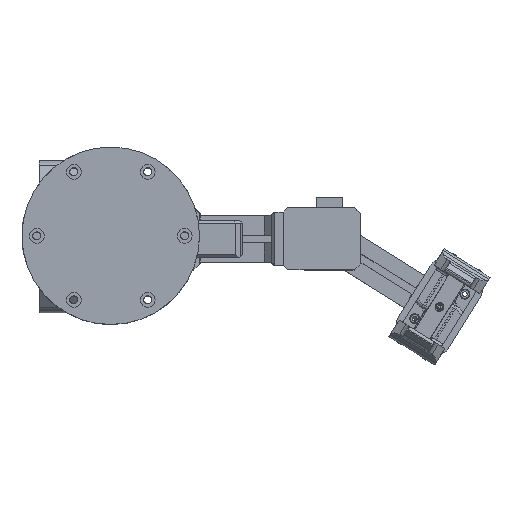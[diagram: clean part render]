
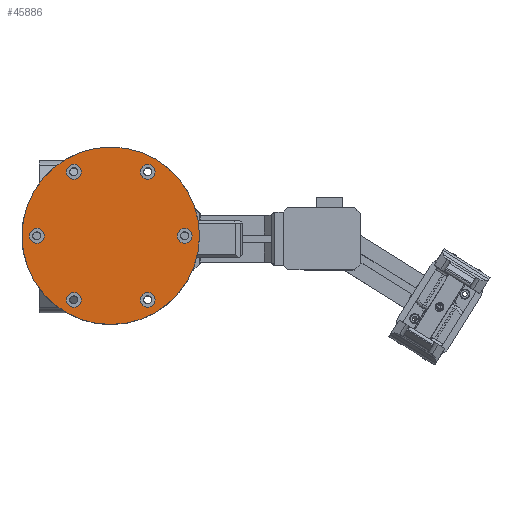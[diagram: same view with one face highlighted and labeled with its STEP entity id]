
A CAD part, top view. The second image highlights one B-rep face of the part: STEP entity #45886.
In plain terms, the highlighted planar face has unit normal (0, 0, 1).
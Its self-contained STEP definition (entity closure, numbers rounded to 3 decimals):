
#2481=FACE_BOUND('',#7935,.T.);
#2482=FACE_BOUND('',#7936,.T.);
#2483=FACE_BOUND('',#7937,.T.);
#2484=FACE_BOUND('',#7938,.T.);
#2485=FACE_BOUND('',#7939,.T.);
#2486=FACE_BOUND('',#7940,.T.);
#3389=PLANE('',#50019);
#5222=FACE_OUTER_BOUND('',#7934,.T.);
#7934=EDGE_LOOP('',(#35968));
#7935=EDGE_LOOP('',(#35969));
#7936=EDGE_LOOP('',(#35970));
#7937=EDGE_LOOP('',(#35971));
#7938=EDGE_LOOP('',(#35972));
#7939=EDGE_LOOP('',(#35973));
#7940=EDGE_LOOP('',(#35974));
#18661=CIRCLE('',#49978,5.);
#18665=CIRCLE('',#49985,5.);
#18669=CIRCLE('',#49992,5.);
#18673=CIRCLE('',#49999,5.);
#18677=CIRCLE('',#50006,5.);
#18681=CIRCLE('',#50013,5.);
#18683=CIRCLE('',#50017,60.);
#21390=VERTEX_POINT('',#71099);
#21394=VERTEX_POINT('',#71112);
#21398=VERTEX_POINT('',#71125);
#21402=VERTEX_POINT('',#71138);
#21406=VERTEX_POINT('',#71151);
#21410=VERTEX_POINT('',#71164);
#21412=VERTEX_POINT('',#71172);
#26731=EDGE_CURVE('',#21390,#21390,#18661,.T.);
#26737=EDGE_CURVE('',#21394,#21394,#18665,.T.);
#26743=EDGE_CURVE('',#21398,#21398,#18669,.T.);
#26749=EDGE_CURVE('',#21402,#21402,#18673,.T.);
#26755=EDGE_CURVE('',#21406,#21406,#18677,.T.);
#26761=EDGE_CURVE('',#21410,#21410,#18681,.T.);
#26764=EDGE_CURVE('',#21412,#21412,#18683,.T.);
#35968=ORIENTED_EDGE('',*,*,#26764,.T.);
#35969=ORIENTED_EDGE('',*,*,#26731,.T.);
#35970=ORIENTED_EDGE('',*,*,#26737,.T.);
#35971=ORIENTED_EDGE('',*,*,#26743,.T.);
#35972=ORIENTED_EDGE('',*,*,#26749,.T.);
#35973=ORIENTED_EDGE('',*,*,#26755,.T.);
#35974=ORIENTED_EDGE('',*,*,#26761,.T.);
#45886=ADVANCED_FACE('',(#5222,#2481,#2482,#2483,#2484,#2485,#2486),#3389,
 .T.);
#49978=AXIS2_PLACEMENT_3D('',#71101,#57711,#57712);
#49985=AXIS2_PLACEMENT_3D('',#71114,#57727,#57728);
#49992=AXIS2_PLACEMENT_3D('',#71127,#57743,#57744);
#49999=AXIS2_PLACEMENT_3D('',#71140,#57759,#57760);
#50006=AXIS2_PLACEMENT_3D('',#71153,#57775,#57776);
#50013=AXIS2_PLACEMENT_3D('',#71166,#57791,#57792);
#50017=AXIS2_PLACEMENT_3D('',#71173,#57800,#57801);
#50019=AXIS2_PLACEMENT_3D('',#71177,#57805,#57806);
#57711=DIRECTION('center_axis',(0.,0.,-1.));
#57712=DIRECTION('ref_axis',(1.,0.,0.));
#57727=DIRECTION('center_axis',(0.,0.,-1.));
#57728=DIRECTION('ref_axis',(1.,0.,0.));
#57743=DIRECTION('center_axis',(0.,0.,-1.));
#57744=DIRECTION('ref_axis',(1.,0.,0.));
#57759=DIRECTION('center_axis',(0.,0.,-1.));
#57760=DIRECTION('ref_axis',(1.,0.,0.));
#57775=DIRECTION('center_axis',(0.,0.,-1.));
#57776=DIRECTION('ref_axis',(1.,0.,0.));
#57791=DIRECTION('center_axis',(0.,0.,-1.));
#57792=DIRECTION('ref_axis',(1.,0.,0.));
#57800=DIRECTION('center_axis',(0.,0.,1.));
#57801=DIRECTION('ref_axis',(1.,0.,0.));
#57805=DIRECTION('center_axis',(0.,0.,1.));
#57806=DIRECTION('ref_axis',(1.,0.,0.));
#71099=CARTESIAN_POINT('',(-55.,0.,30.));
#71101=CARTESIAN_POINT('Origin',(-50.,0.,
30.));
#71112=CARTESIAN_POINT('',(-30.,43.301,30.));
#71114=CARTESIAN_POINT('Origin',(-25.,43.301,30.));
#71125=CARTESIAN_POINT('',(20.,43.301,30.));
#71127=CARTESIAN_POINT('Origin',(25.,43.301,30.));
#71138=CARTESIAN_POINT('',(45.,0.,30.));
#71140=CARTESIAN_POINT('Origin',(50.,0.,30.));
#71151=CARTESIAN_POINT('',(-30.,-43.301,30.));
#71153=CARTESIAN_POINT('Origin',(-25.,-43.301,30.));
#71164=CARTESIAN_POINT('',(20.,-43.301,30.));
#71166=CARTESIAN_POINT('Origin',(25.,-43.301,30.));
#71172=CARTESIAN_POINT('',(-60.,0.,30.));
#71173=CARTESIAN_POINT('Origin',(0.,0.,
30.));
#71177=CARTESIAN_POINT('Origin',(0.,0.,
30.));
